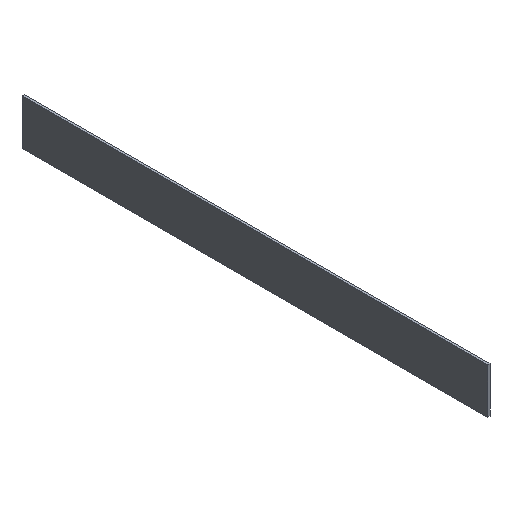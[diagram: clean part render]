
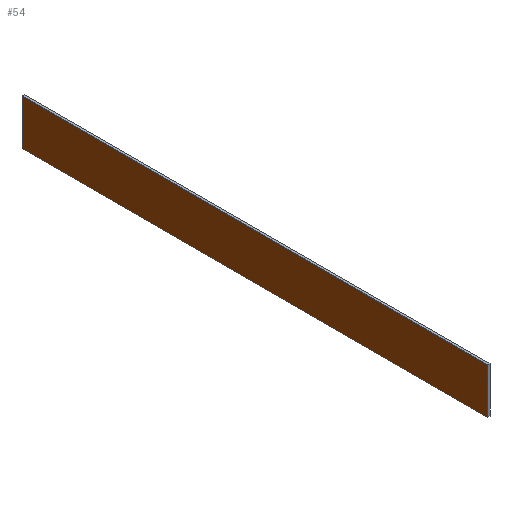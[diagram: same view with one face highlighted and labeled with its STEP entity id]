
A CAD part, isometric view. The second image highlights one B-rep face of the part: STEP entity #54.
In plain terms, the highlighted planar face has unit normal (-1, 0, 0).
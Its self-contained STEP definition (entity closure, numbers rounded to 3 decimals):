
#54=ADVANCED_FACE('',(#65),#66,.F.);
#65=FACE_OUTER_BOUND('',#78,.T.);
#66=PLANE('',#79);
#78=EDGE_LOOP('',(#106,#107,#108,#109));
#79=AXIS2_PLACEMENT_3D('',#110,#111,#112);
#106=ORIENTED_EDGE('',*,*,#138,.T.);
#107=ORIENTED_EDGE('',*,*,#134,.F.);
#108=ORIENTED_EDGE('',*,*,#136,.F.);
#109=ORIENTED_EDGE('',*,*,#130,.F.);
#110=CARTESIAN_POINT('',(-260.0,257.896,-135.0));
#111=DIRECTION('',(1.0,-0.0,0.0));
#112=DIRECTION('',(0.0,0.0,-1.0));
#130=EDGE_CURVE('',#143,#145,#146,.T.);
#134=EDGE_CURVE('',#151,#153,#154,.T.);
#136=EDGE_CURVE('',#145,#151,#156,.T.);
#138=EDGE_CURVE('',#143,#153,#158,.T.);
#143=VERTEX_POINT('',#164);
#145=VERTEX_POINT('',#167);
#146=LINE('',#168,#169);
#151=VERTEX_POINT('',#176);
#153=VERTEX_POINT('',#179);
#154=LINE('',#180,#181);
#156=LINE('',#184,#185);
#158=LINE('',#188,#189);
#164=CARTESIAN_POINT('',(-260.0,360.2,-125.0));
#167=CARTESIAN_POINT('',(-260.0,155.592,-125.0));
#168=CARTESIAN_POINT('',(-260.0,257.896,-125.0));
#169=VECTOR('',#194,1.0);
#176=CARTESIAN_POINT('',(-260.0,155.592,-145.0));
#179=CARTESIAN_POINT('',(-260.0,360.2,-145.0));
#180=CARTESIAN_POINT('',(-260.0,257.896,-145.0));
#181=VECTOR('',#198,1.0);
#184=CARTESIAN_POINT('',(-260.0,155.592,-135.0));
#185=VECTOR('',#200,1.0);
#188=CARTESIAN_POINT('',(-260.0,360.2,-135.0));
#189=VECTOR('',#202,1.0);
#194=DIRECTION('',(0.0,-1.0,0.0));
#198=DIRECTION('',(0.0,1.0,0.0));
#200=DIRECTION('',(0.0,0.0,-1.0));
#202=DIRECTION('',(0.0,0.0,-1.0));
